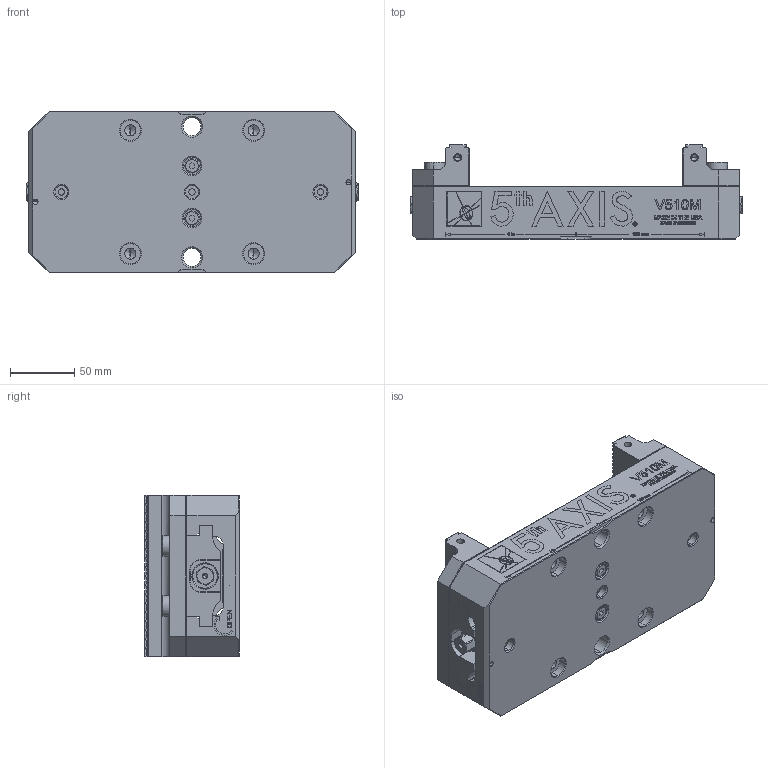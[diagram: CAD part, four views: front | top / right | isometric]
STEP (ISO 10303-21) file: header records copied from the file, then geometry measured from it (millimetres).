
FILE_DESCRIPTION (( 'STEP AP214' ), '1' );
FILE_NAME ('V510M.STEP', '2019-03-21T19:26:46', ( '' ), ( '' ), 'SwSTEP 2.0', 'SolidWorks 2018', '' );
FILE_SCHEMA (( 'AUTOMOTIVE_DESIGN' ));
Length unit declared in the file: millimetre
Products named in the file (13): V510M; V56124-6_V56124-6; TIM-58; SB5V; M8X12.DP_DEFAULT; M3X3.CPSS_DEFAULT; 76300_DEFAULT; V5104-4_V56124-4; V562M-5_FINISHED PART ; V562M-3_V562M-3; V562M-2R_gind op (final right); V562M-2L_V562M-2L; V510M_V5104-1
Assembly tree (23 placements, depth 2):
  V510M
    V510M_V5104-1
    V562M-2L_V562M-2L
    V562M-2R_gind op (final right)
    V562M-3_V562M-3
    V562M-5_FINISHED PART   x2
    V5104-4_V56124-4
    76300_DEFAULT  x4
    M3X3.CPSS_DEFAULT
    M8X12.DP_DEFAULT  x4
    SB5V  x2
    TIM-58  x3
    V56124-6_V56124-6  x2
Bounding box: 258.32 x 73.65 x 125.73 mm (x, y, z)
Volume: 1170830.8 mm3; surface area: 228625.7 mm2
Topology: 23 solids, 23 shells, 3902 faces, 10454 edges, 6870 vertices
Faces by surface type: plane 1997, cylinder 881, bspline 765, cone 231, sphere 16, torus 12
Entity records: 158269 total; most frequent: CARTESIAN_POINT 61104, ORIENTED_EDGE 16876, DIRECTION 12140, EDGE_CURVE 8438, VECTOR 5730, LINE 5730, VERTEX_POINT 5572, EDGE_LOOP 3498
